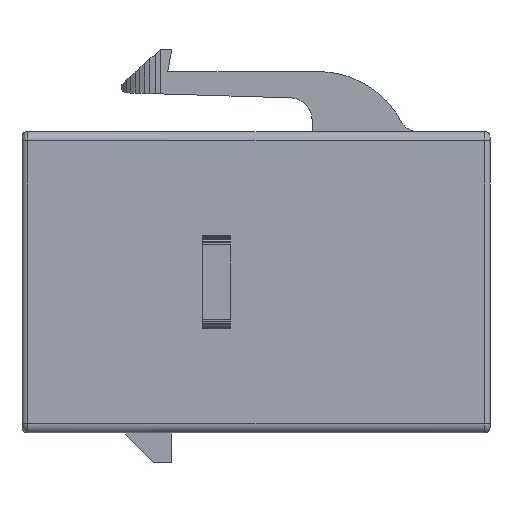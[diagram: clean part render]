
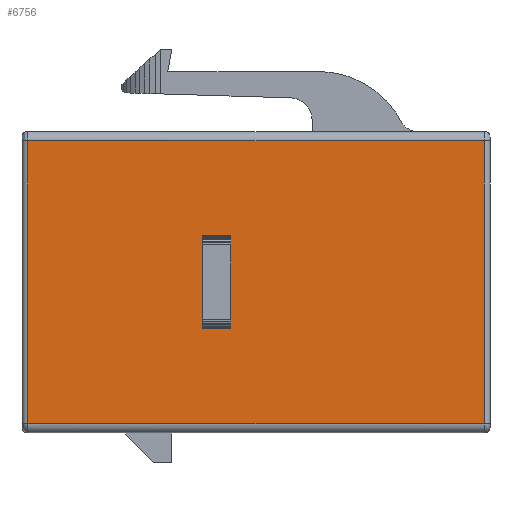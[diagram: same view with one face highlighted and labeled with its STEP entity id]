
A CAD part, front view. The second image highlights one B-rep face of the part: STEP entity #6756.
In plain terms, the highlighted free-form (B-spline) face has degree [1, 1] with [2, 2] control points.
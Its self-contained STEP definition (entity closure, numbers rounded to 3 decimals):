
#347=CARTESIAN_POINT('',(11.146,0.,10.556));
#348=VERTEX_POINT('',#347);
#349=CARTESIAN_POINT('',(11.146,0.,5.556));
#350=VERTEX_POINT('',#349);
#351=CARTESIAN_POINT('',(11.146,0.,10.556));
#352=CARTESIAN_POINT('',(11.146,0.,9.556));
#353=CARTESIAN_POINT('',(11.146,0.,8.556));
#354=CARTESIAN_POINT('',(11.146,0.,7.556));
#355=CARTESIAN_POINT('',(11.146,0.,6.556));
#356=CARTESIAN_POINT('',(11.146,0.,5.556));
#357=B_SPLINE_CURVE_WITH_KNOTS('',5,(#351,#352,#353,#354,#355,#356),.UNSPECIFIED.,.F.,.U.,(6,6),(0.,5.),.UNSPECIFIED.);
#358=EDGE_CURVE('',#348,#350,#357,.T.);
#575=CARTESIAN_POINT('',(9.647,0.,10.556));
#576=VERTEX_POINT('',#575);
#577=CARTESIAN_POINT('',(9.647,0.,10.556));
#578=CARTESIAN_POINT('',(9.947,0.,10.556));
#579=CARTESIAN_POINT('',(10.247,0.,10.556));
#580=CARTESIAN_POINT('',(10.547,0.,10.556));
#581=CARTESIAN_POINT('',(10.846,0.,10.556));
#582=CARTESIAN_POINT('',(11.146,0.,10.556));
#583=B_SPLINE_CURVE_WITH_KNOTS('',5,(#577,#578,#579,#580,#581,#582),.UNSPECIFIED.,.F.,.U.,(6,6),(0.,1.499),.UNSPECIFIED.);
#584=EDGE_CURVE('',#576,#348,#583,.T.);
#615=CARTESIAN_POINT('',(9.647,0.,5.556));
#616=VERTEX_POINT('',#615);
#617=CARTESIAN_POINT('',(11.146,0.,5.556));
#618=CARTESIAN_POINT('',(10.846,0.,5.556));
#619=CARTESIAN_POINT('',(10.547,0.,5.556));
#620=CARTESIAN_POINT('',(10.247,0.,5.556));
#621=CARTESIAN_POINT('',(9.947,0.,5.556));
#622=CARTESIAN_POINT('',(9.647,0.,5.556));
#623=B_SPLINE_CURVE_WITH_KNOTS('',5,(#617,#618,#619,#620,#621,#622),.UNSPECIFIED.,.F.,.U.,(6,6),(0.,1.499),.UNSPECIFIED.);
#624=EDGE_CURVE('',#350,#616,#623,.T.);
#1174=CARTESIAN_POINT('',(9.647,0.,5.556));
#1175=CARTESIAN_POINT('',(9.647,0.,6.556));
#1176=CARTESIAN_POINT('',(9.647,0.,7.556));
#1177=CARTESIAN_POINT('',(9.647,0.,8.556));
#1178=CARTESIAN_POINT('',(9.647,0.,9.556));
#1179=CARTESIAN_POINT('',(9.647,0.,10.556));
#1180=B_SPLINE_CURVE_WITH_KNOTS('',5,(#1174,#1175,#1176,#1177,#1178,#1179),.UNSPECIFIED.,.F.,.U.,(6,6),(0.,5.),.UNSPECIFIED.);
#1181=EDGE_CURVE('',#616,#576,#1180,.T.);
#6166=CARTESIAN_POINT('',(24.7,0.,15.603));
#6167=VERTEX_POINT('',#6166);
#6337=CARTESIAN_POINT('',(24.7,0.,0.5));
#6338=VERTEX_POINT('',#6337);
#6369=CARTESIAN_POINT('',(24.7,0.,15.603));
#6370=CARTESIAN_POINT('',(24.7,0.,12.582));
#6371=CARTESIAN_POINT('',(24.7,0.,9.562));
#6372=CARTESIAN_POINT('',(24.7,0.,6.541));
#6373=CARTESIAN_POINT('',(24.7,0.,3.521));
#6374=CARTESIAN_POINT('',(24.7,0.,0.5));
#6375=B_SPLINE_CURVE_WITH_KNOTS('',5,(#6369,#6370,#6371,#6372,#6373,#6374),.UNSPECIFIED.,.F.,.U.,(6,6),(0.,15.103),.UNSPECIFIED.);
#6376=EDGE_CURVE('',#6167,#6338,#6375,.T.);
#6678=CARTESIAN_POINT('',(0.3,0.,0.5));
#6679=VERTEX_POINT('',#6678);
#6680=CARTESIAN_POINT('',(24.7,0.,0.5));
#6681=CARTESIAN_POINT('',(19.82,0.,0.5));
#6682=CARTESIAN_POINT('',(14.94,0.,0.5));
#6683=CARTESIAN_POINT('',(10.06,0.,0.5));
#6684=CARTESIAN_POINT('',(5.18,0.,0.5));
#6685=CARTESIAN_POINT('',(0.3,0.,0.5));
#6686=B_SPLINE_CURVE_WITH_KNOTS('',5,(#6680,#6681,#6682,#6683,#6684,#6685),.UNSPECIFIED.,.F.,.U.,(6,6),(0.,24.4),.UNSPECIFIED.);
#6687=EDGE_CURVE('',#6338,#6679,#6686,.T.);
#6721=CARTESIAN_POINT('',(0.3,0.,15.603));
#6722=CARTESIAN_POINT('',(24.7,0.,15.603));
#6723=CARTESIAN_POINT('',(0.3,0.,0.5));
#6724=CARTESIAN_POINT('',(24.7,0.,0.5));
#6725=B_SPLINE_SURFACE_WITH_KNOTS('',1,1,((#6721,#6722),(#6723,#6724)),.PLANE_SURF.,.F.,.F.,.U.,(2,2),(2,2),(0.,1.),(0.,1.616),.UNSPECIFIED.);
#6726=ORIENTED_EDGE('',*,*,#6376,.F.);
#6727=CARTESIAN_POINT('',(0.3,0.,15.603));
#6728=VERTEX_POINT('',#6727);
#6729=CARTESIAN_POINT('',(0.3,0.,15.603));
#6730=CARTESIAN_POINT('',(5.18,0.,15.603));
#6731=CARTESIAN_POINT('',(10.06,0.,15.603));
#6732=CARTESIAN_POINT('',(14.94,0.,15.603));
#6733=CARTESIAN_POINT('',(19.82,0.,15.603));
#6734=CARTESIAN_POINT('',(24.7,0.,15.603));
#6735=B_SPLINE_CURVE_WITH_KNOTS('',5,(#6729,#6730,#6731,#6732,#6733,#6734),.UNSPECIFIED.,.F.,.U.,(6,6),(0.,24.4),.UNSPECIFIED.);
#6736=EDGE_CURVE('',#6728,#6167,#6735,.T.);
#6737=ORIENTED_EDGE('',*,*,#6736,.F.);
#6738=CARTESIAN_POINT('',(0.3,0.,0.5));
#6739=CARTESIAN_POINT('',(0.3,0.,3.521));
#6740=CARTESIAN_POINT('',(0.3,0.,6.541));
#6741=CARTESIAN_POINT('',(0.3,0.,9.562));
#6742=CARTESIAN_POINT('',(0.3,0.,12.582));
#6743=CARTESIAN_POINT('',(0.3,0.,15.603));
#6744=B_SPLINE_CURVE_WITH_KNOTS('',5,(#6738,#6739,#6740,#6741,#6742,#6743),.UNSPECIFIED.,.F.,.U.,(6,6),(0.,15.103),.UNSPECIFIED.);
#6745=EDGE_CURVE('',#6679,#6728,#6744,.T.);
#6746=ORIENTED_EDGE('',*,*,#6745,.F.);
#6747=ORIENTED_EDGE('',*,*,#6687,.F.);
#6748=EDGE_LOOP('',(#6726,#6737,#6746,#6747));
#6749=FACE_OUTER_BOUND('',#6748,.T.);
#6750=ORIENTED_EDGE('',*,*,#584,.T.);
#6751=ORIENTED_EDGE('',*,*,#358,.T.);
#6752=ORIENTED_EDGE('',*,*,#624,.T.);
#6753=ORIENTED_EDGE('',*,*,#1181,.T.);
#6754=EDGE_LOOP('',(#6750,#6751,#6752,#6753));
#6755=FACE_BOUND('',#6754,.T.);
#6756=ADVANCED_FACE('',(#6749,#6755),#6725,.T.);
